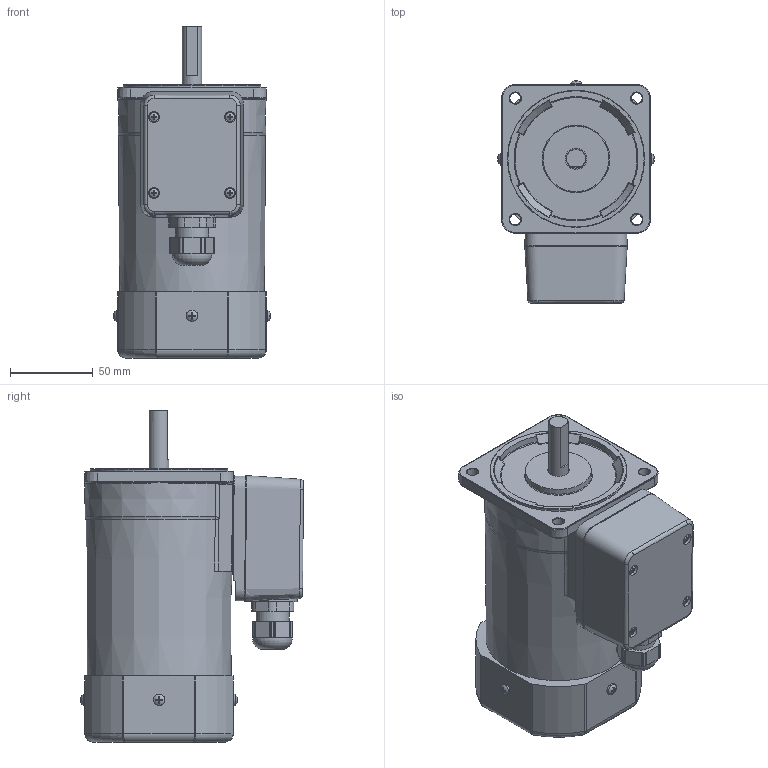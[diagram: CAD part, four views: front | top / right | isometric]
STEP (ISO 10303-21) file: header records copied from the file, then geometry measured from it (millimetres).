
FILE_DESCRIPTION (( 'STEP AP214' ), '1' );
FILE_NAME ('9IDD¤±-200F-AT.STEP', '2025-01-13T03:00:22', ( '' ), ( '' ), 'SwSTEP 2.0', 'SolidWorks 2024', '' );
FILE_SCHEMA (( 'AUTOMOTIVE_DESIGN' ));
Length unit declared in the file: millimetre
Products named in the file (3): 9IDDㅁ-200F-AT; TB6276; 9IDDㅁ-180F
Assembly tree (2 placements, depth 2):
  9IDDㅁ-200F-AT
    9IDDㅁ-180F
    TB6276
Bounding box: 95.09 x 134.99 x 201 mm (x, y, z)
Volume: 1268377.5 mm3; surface area: 92691.5 mm2
Topology: 2 solids, 2 shells, 569 faces, 1483 edges, 956 vertices
Faces by surface type: plane 241, cylinder 203, bspline 50, torus 36, cone 33, sphere 6
Full cylindrical faces by diameter (mm): 5.5 x4, 6.1 x1, 6.5 x4, 6.6 x4, 7 x4, 8 x1, 12 x1, 13 x2, 20 x1, 83.1 x1
Entity records: 20662 total; most frequent: CARTESIAN_POINT 7153, ORIENTED_EDGE 2798, DIRECTION 2756, EDGE_CURVE 1399, AXIS2_PLACEMENT_3D 1064, VERTEX_POINT 937, EDGE_LOOP 680, LINE 628
